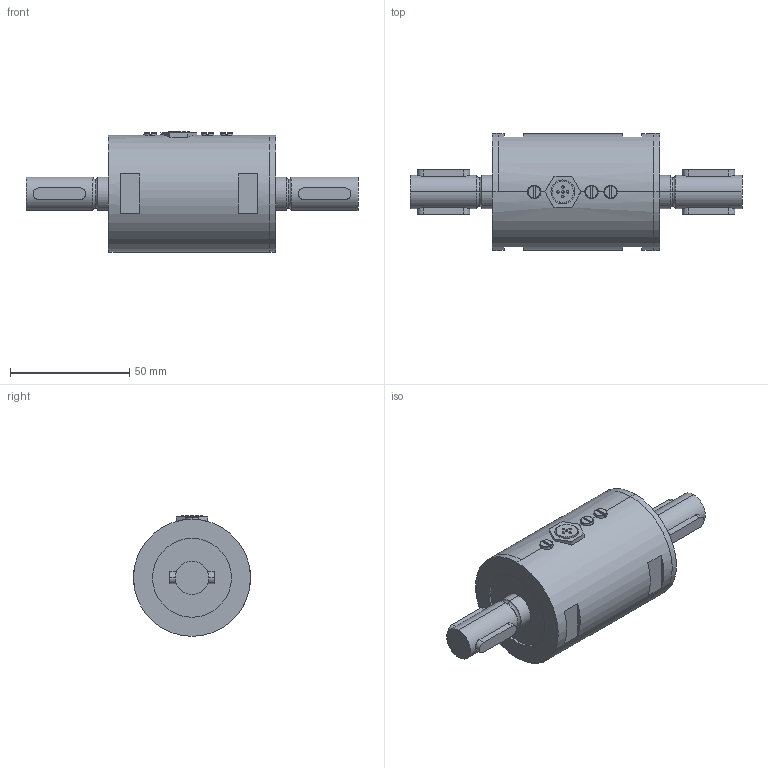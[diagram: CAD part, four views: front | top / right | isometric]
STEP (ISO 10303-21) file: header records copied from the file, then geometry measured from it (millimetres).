
FILE_DESCRIPTION(('STEP AP203'),'1');
FILE_NAME('C:/TPO v2/SharedFS/Outgoing/burster_8645-5075_d992waupvnjbuy0m91fh7663n.stp','2013-08-28T18:46:26',('TraceParts'),('TraceParts S.A.'),'XStep 1.0',' ',' ');
FILE_SCHEMA(('CONFIG_CONTROL_DESIGN'));
Length unit declared in the file: millimetre
Products named in the file (1): 1
Bounding box: 139 x 49 x 50.5 mm (x, y, z)
Volume: 141749.5 mm3; surface area: 19190.8 mm2
Topology: 1 solids, 1 shells, 138 faces, 322 edges, 210 vertices
Faces by surface type: plane 64, cylinder 54, torus 14, cone 6
Entity records: 4942 total; most frequent: CARTESIAN_POINT 1711, DIRECTION 688, ORIENTED_EDGE 644, EDGE_CURVE 322, AXIS2_PLACEMENT_3D 279, VERTEX_POINT 210, EDGE_LOOP 162, ADVANCED_FACE 138
